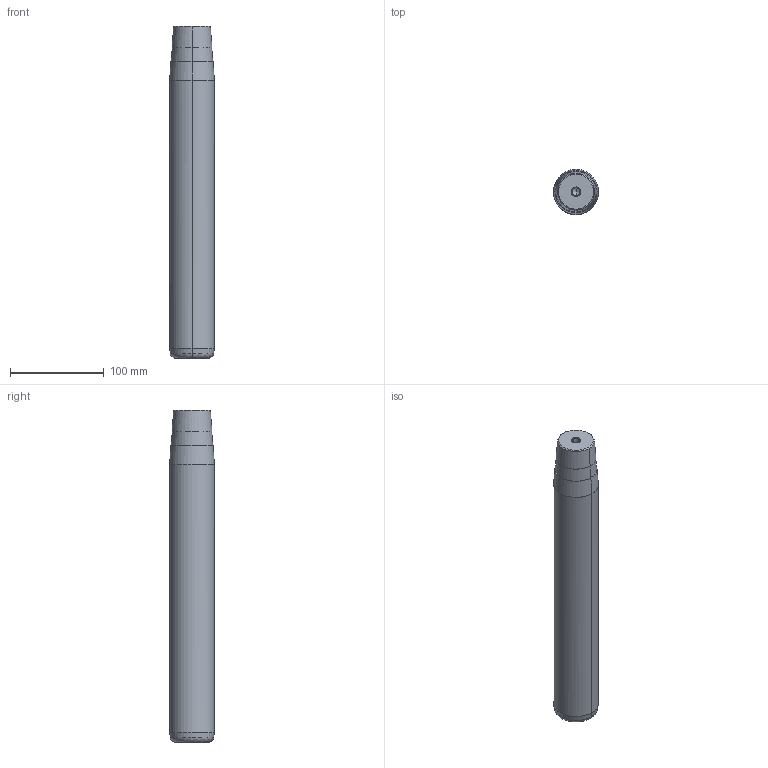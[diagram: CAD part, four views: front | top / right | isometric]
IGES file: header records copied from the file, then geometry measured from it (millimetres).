
Start section: START RECORD GO HERE.
Global section: file name: 722-48x315x355.igs; native system: DASSAULT SYSTEMES CATIA V5 R20 - www.3ds.com; preprocessor: CATIA Version 5 Release 20 ; author: Utente; organization: NB04-ASUS; date: 20210108.160002; units: millimetre
Bounding box: 48 x 48 x 355 mm (x, y, z)
Surface area: 56667.5 mm2 (no closed solid volume)
Topology: 0 solids, 0 shells, 32 faces, 192 edges, 188 vertices
Faces by surface type: revolution 30, plane 2
